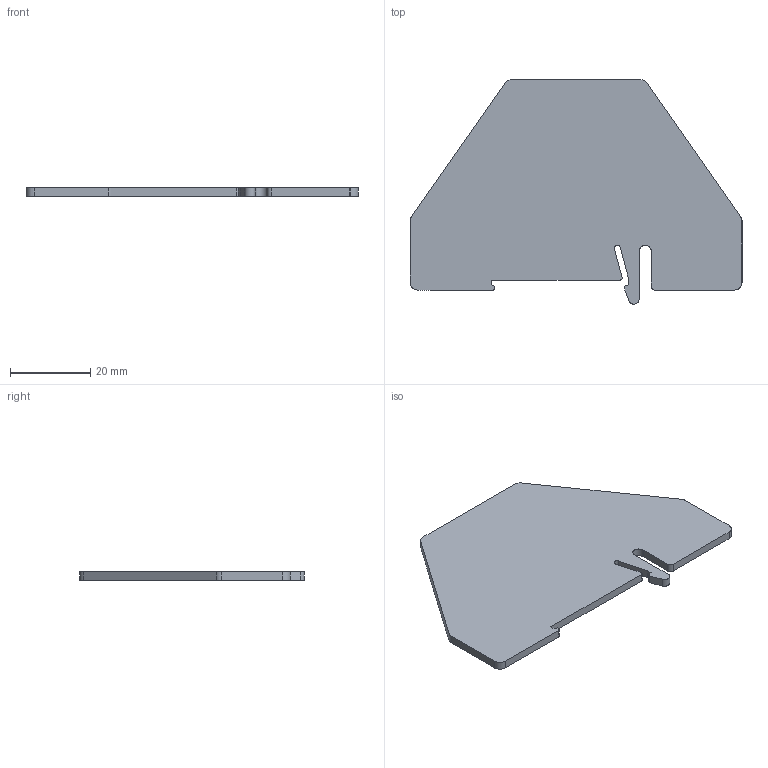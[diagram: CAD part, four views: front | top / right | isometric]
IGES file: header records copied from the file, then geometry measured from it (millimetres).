
Global section: file name: 1413285_atp-dikd15_select.igs; native system: OneSpace Designer 3D IGES; preprocessor: 12.01C  26-Mar-2004; date: 20041004.121833; units: millimetre
Bounding box: 83 x 56.05 x 2.05 mm (x, y, z)
Surface area: 7384.2 mm2 (no closed solid volume)
Topology: 0 solids, 0 shells, 34 faces, 274 edges, 274 vertices
Faces by surface type: bspline 34
